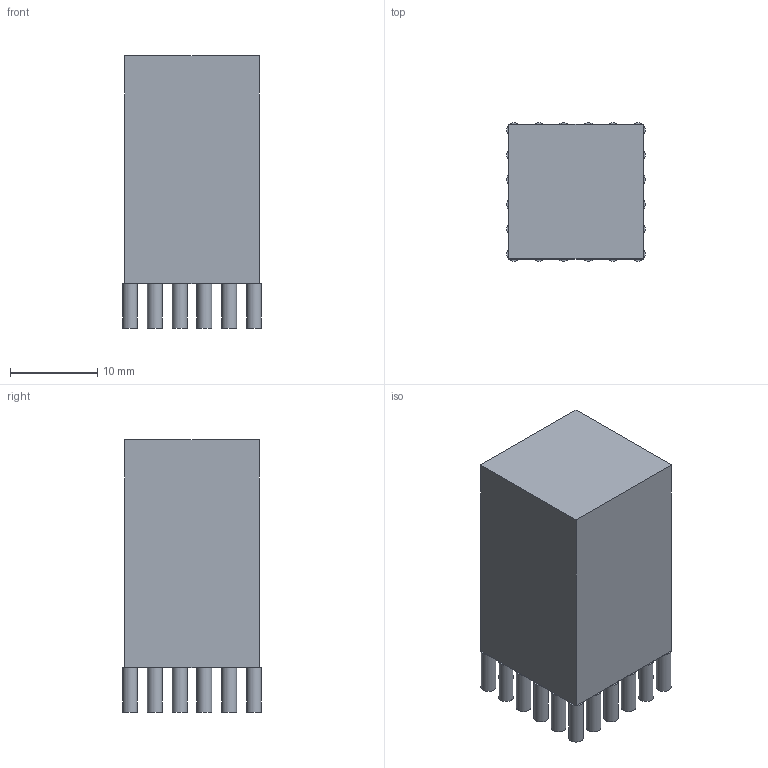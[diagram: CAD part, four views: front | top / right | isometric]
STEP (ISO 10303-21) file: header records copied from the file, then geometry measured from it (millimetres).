
FILE_DESCRIPTION(('FreeCAD Model'),'2;1');
FILE_NAME('/var/www/3D/0T/20043354.1.5.stp','2024-10-22T15:24:20',( 'Author'),(''),'Open CASCADE STEP processor 6.9','FreeCAD','Unknown' );
FILE_SCHEMA(('AUTOMOTIVE_DESIGN { 1 0 10303 214 1 1 1 1 }'));
Length unit declared in the file: millimetre
Products named in the file (3): ASSEMBLY; Body; Leads
Assembly tree (2 placements, depth 2):
  ASSEMBLY
    Body
    Leads
Bounding box: 15.9 x 15.9 x 31.2 mm (x, y, z)
Volume: 6421.4 mm3; surface area: 2717.6 mm2
Topology: 21 solids, 21 shells, 66 faces, 72 edges, 48 vertices
Faces by surface type: plane 46, cylinder 20
Full cylindrical faces by diameter (mm): 1.7 x20
Entity records: 2391 total; most frequent: DIRECTION 394, CARTESIAN_POINT 333, ORIENTED_EDGE 144, PCURVE 144, DEFINITIONAL_REPRESENTATION 144, LINE 136, VECTOR 136, AXIS2_PLACEMENT_3D 109
